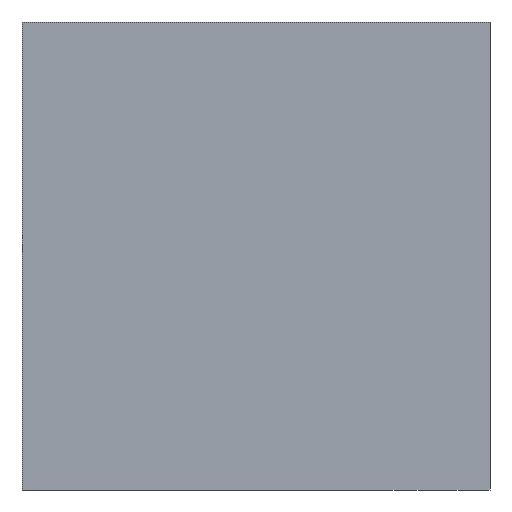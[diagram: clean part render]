
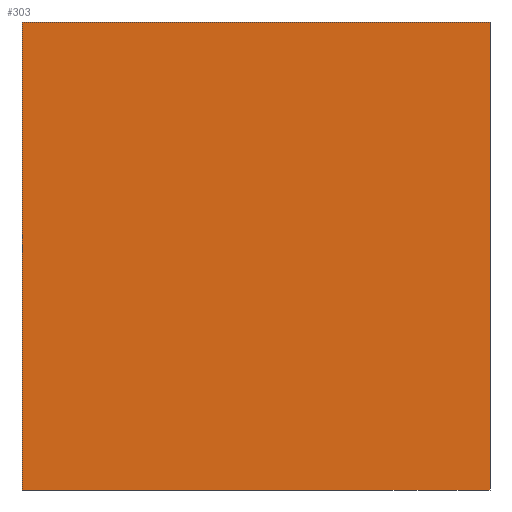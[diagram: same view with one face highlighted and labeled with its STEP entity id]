
A CAD part, left-side view. The second image highlights one B-rep face of the part: STEP entity #303.
In plain terms, the highlighted planar face has unit normal (-1, 0, 0).
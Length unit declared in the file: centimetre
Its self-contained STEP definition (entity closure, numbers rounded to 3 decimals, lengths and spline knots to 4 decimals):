
#4 = CARTESIAN_POINT ( 'NONE',  ( 0., 1000., 1000. ) ) ;
#31 = VERTEX_POINT ( 'NONE', #156 ) ;
#32 = DIRECTION ( 'NONE',  ( 0., 0., -1. ) ) ;
#50 = VERTEX_POINT ( 'NONE', #301 ) ;
#73 = EDGE_CURVE ( 'NONE', #50, #154, #434, .T. ) ;
#75 = CARTESIAN_POINT ( 'NONE',  ( 0., 1000., 1000. ) ) ;
#92 = VECTOR ( 'NONE', #392, 100. ) ;
#102 = EDGE_CURVE ( 'NONE', #31, #154, #432, .T. ) ;
#118 = DIRECTION ( 'NONE',  ( 1., 0., 0. ) ) ;
#130 = EDGE_LOOP ( 'NONE', ( #383, #286, #500, #136 ) ) ;
#136 = ORIENTED_EDGE ( 'NONE', *, *, #246, .T. ) ;
#154 = VERTEX_POINT ( 'NONE', #239 ) ;
#156 = CARTESIAN_POINT ( 'NONE',  ( 0., 0., 1000. ) ) ;
#206 = FACE_OUTER_BOUND ( 'NONE', #130, .T. ) ;
#239 = CARTESIAN_POINT ( 'NONE',  ( 0., 0., 0. ) ) ;
#246 = EDGE_CURVE ( 'NONE', #255, #50, #437, .T. ) ;
#255 = VERTEX_POINT ( 'NONE', #281 ) ;
#274 = DIRECTION ( 'NONE',  ( 0., 0., -1. ) ) ;
#277 = PLANE ( 'NONE',  #314 ) ;
#281 = CARTESIAN_POINT ( 'NONE',  ( 0., 1000., 1000. ) ) ;
#286 = ORIENTED_EDGE ( 'NONE', *, *, #102, .F. ) ;
#298 = VECTOR ( 'NONE', #309, 100. ) ;
#301 = CARTESIAN_POINT ( 'NONE',  ( 0., 1000., 0. ) ) ;
#303 = ADVANCED_FACE ( 'NONE', ( #206 ), #277, .F. ) ;
#309 = DIRECTION ( 'NONE',  ( 0., -1., 0. ) ) ;
#311 = EDGE_CURVE ( 'NONE', #255, #31, #433, .T. ) ;
#314 = AXIS2_PLACEMENT_3D ( 'NONE', #512, #118, #274 ) ;
#315 = DIRECTION ( 'NONE',  ( 0., 0., -1. ) ) ;
#316 = CARTESIAN_POINT ( 'NONE',  ( 0., 1000., 0. ) ) ;
#339 = VECTOR ( 'NONE', #315, 100. ) ;
#383 = ORIENTED_EDGE ( 'NONE', *, *, #73, .T. ) ;
#385 = CARTESIAN_POINT ( 'NONE',  ( 0., 0., 1000. ) ) ;
#392 = DIRECTION ( 'NONE',  ( 0., -1., 0. ) ) ;
#432 = LINE ( 'NONE', #385, #448 ) ;
#433 = LINE ( 'NONE', #75, #92 ) ;
#434 = LINE ( 'NONE', #316, #298 ) ;
#437 = LINE ( 'NONE', #4, #339 ) ;
#448 = VECTOR ( 'NONE', #32, 100. ) ;
#500 = ORIENTED_EDGE ( 'NONE', *, *, #311, .F. ) ;
#512 = CARTESIAN_POINT ( 'NONE',  ( 0., 1000., 1000. ) ) ;
